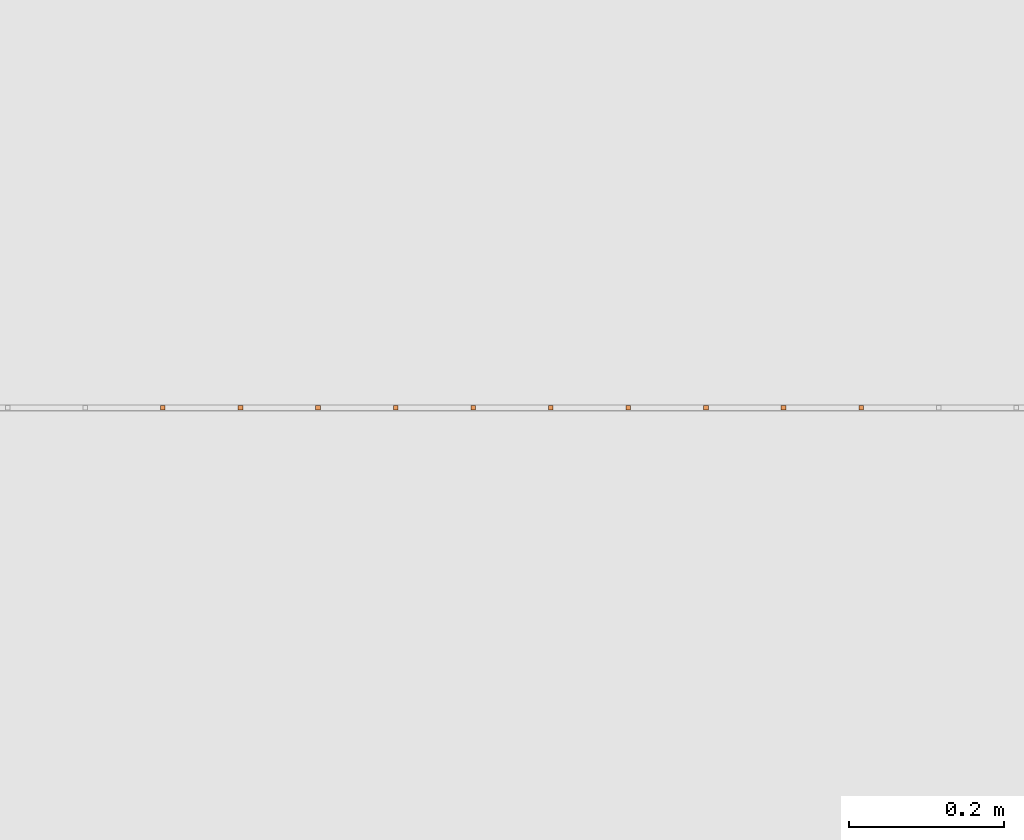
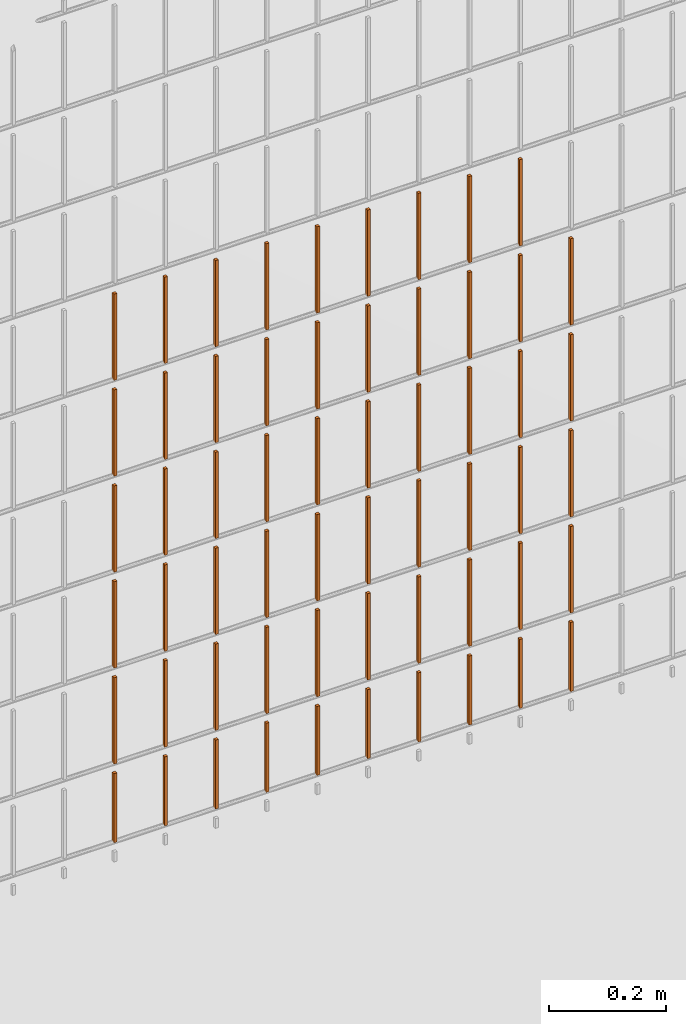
# One storey, part 239 of 1809: 59 proxies, 1 element without a shape of its own.
"""IFC2X3 building model written with IfcOpenShell, lengths in millimetres."""

from ifc_helpers import new_model, entity, si_unit, converted_unit, derived_unit, money_unit, direction, frame, origin_with_axes, place, context, subcontext, project, spatial, faceted_brep, source, transform, mapped, material, type_object, element, aggregate, save


model = new_model("IFC2X3")

# Units and contexts
model_context = context("Model", 3, precision=0.01, world=origin_with_axes(), true_north=direction((0.0, 1.0)))
body_context = subcontext(model_context, "Body", "Model", "MODEL_VIEW")
ifc_project = project(units=[si_unit("LENGTHUNIT", "METRE", prefix="MILLI"), si_unit("AREAUNIT", "SQUARE_METRE"), si_unit("VOLUMEUNIT", "CUBIC_METRE"), converted_unit("PLANEANGLEUNIT", "DEGREE", entity("IfcPlaneAngleMeasure", 0.0174532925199), si_unit("PLANEANGLEUNIT", "RADIAN"), dimensions=[0, 0, 0, 0, 0, 0, 0]), si_unit("SOLIDANGLEUNIT", "STERADIAN"), money_unit("EUR"), converted_unit("TIMEUNIT", "Year", entity("IfcTimeMeasure", 31556926.0), si_unit("TIMEUNIT", "SECOND"), dimensions=[0, 0, 1, 0, 0, 0, 0]), si_unit("MASSUNIT", "GRAM", prefix="KILO"), si_unit("THERMODYNAMICTEMPERATUREUNIT", "DEGREE_CELSIUS"), si_unit("LUMINOUSINTENSITYUNIT", "LUMEN"), si_unit("ENERGYUNIT", "JOULE", prefix="MEGA"), derived_unit("THERMALCONDUCTANCEUNIT", [(si_unit("POWERUNIT", "WATT"), 1), (si_unit("LENGTHUNIT", "METRE"), -1), (si_unit("THERMODYNAMICTEMPERATUREUNIT", "KELVIN"), -1)]), derived_unit("SPECIFICHEATCAPACITYUNIT", [(si_unit("ENERGYUNIT", "JOULE"), 1), (si_unit("MASSUNIT", "GRAM", prefix="KILO"), -1), (si_unit("THERMODYNAMICTEMPERATUREUNIT", "KELVIN"), -1)]), derived_unit("MASSDENSITYUNIT", [(si_unit("MASSUNIT", "GRAM", prefix="KILO"), 1), (si_unit("VOLUMEUNIT", "CUBIC_METRE"), -1)])], contexts=[model_context])

# Site, building, storey
site_placement = place(None, origin_with_axes())
site = spatial("IfcSite", under=ifc_project, at=site_placement, Name="Politse- ja Piirivalveameti ning Päästeameti ühishoone", CompositionType="ELEMENT")
building_placement = place(site_placement, origin_with_axes())
building = spatial("IfcBuilding", under=site, at=building_placement, Name="Politse- ja Piirivalveameti ning Päästeameti ühishoone", CompositionType="ELEMENT")
storey_placement = place(building_placement, origin_with_axes())
storey = spatial("IfcBuildingStorey", under=building, at=storey_placement, Name="Esimene korrus", CompositionType="ELEMENT", Elevation=0.0)

# Proxies
building_element_proxy_type_1 = type_object("IfcBuildingElementProxyType", Name="Railing Type", PredefinedType="NOTDEFINED")
proxy_1_placement = place(storey_placement, frame((-16775.8601056, 25156.7555964, 0.0), z_axis=(0.0, 0.0, 1.0), x_axis=(1.0, 0.0, 0.0)))
proxy_1 = element("IfcBuildingElementProxy", 1, at=proxy_1_placement, inside=storey, type_object=building_element_proxy_type_1, Name="KENNELI PIIRE")
ifc_material = material(Name="Teras - Konstruktsioon")
building_element_proxy_type_2 = type_object("IfcBuildingElementProxyType", Name="IfcBuildingElementProxy", PredefinedType="NOTDEFINED")
shared_shape_1 = source(origin_with_axes(), body_context, "Body", "Brep", [
    faceted_brep([(3.0, 3.0, 0.0), (-3.0, 3.0, 0.0), (-3.0, 3.0, 180.000012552), (3.0, 3.0, 180.000012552), (3.0, -3.0, 0.0), (-3.0, -3.0, 0.0), (-3.0, -3.0, 180.000012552), (3.0, -3.0, 180.000012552)], [[[0, 1, 2, 3]], [[0, 4, 5, 1]], [[1, 5, 6, 2]], [[3, 2, 6, 7]], [[4, 0, 3, 7]], [[5, 4, 7, 6]]]),
])
proxy_2_placement = place(proxy_1_placement, frame((-4082.26655065, -16068.8402798, 403.999987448), z_axis=(0.0, 0.0, 1.0), x_axis=(1.0, 0.0, 0.0)))
proxy_2 = element("IfcBuildingElementProxy", 2, at=proxy_2_placement, type_object=building_element_proxy_type_2, material=ifc_material, Name="BALUSTER - 001", context=body_context, shape_type="MappedRepresentation", body=[
    mapped(shared_shape_1, transform((0.0, 0.0, 0.0), x_axis=(0.0, -1.0, 0.0), y_axis=(1.0, 0.0, 0.0), z_axis=(0.0, 0.0, 1.0))),
])
proxy_3_placement = place(proxy_1_placement, frame((-3982.26655065, -16068.8402798, 403.999987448), z_axis=(0.0, 0.0, 1.0), x_axis=(1.0, 0.0, 0.0)))
proxy_3 = element("IfcBuildingElementProxy", 3, at=proxy_3_placement, type_object=building_element_proxy_type_2, material=ifc_material, Name="BALUSTER - 001", context=body_context, shape_type="MappedRepresentation", body=[
    mapped(shared_shape_1, transform((0.0, 0.0, 0.0), x_axis=(0.0, -1.0, 0.0), y_axis=(1.0, 0.0, 0.0), z_axis=(0.0, 0.0, 1.0))),
])
proxy_4_placement = place(proxy_1_placement, frame((-3882.26655065, -16068.8402798, 403.999987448), z_axis=(0.0, 0.0, 1.0), x_axis=(1.0, 0.0, 0.0)))
proxy_4 = element("IfcBuildingElementProxy", 4, at=proxy_4_placement, type_object=building_element_proxy_type_2, material=ifc_material, Name="BALUSTER - 001", context=body_context, shape_type="MappedRepresentation", body=[
    mapped(shared_shape_1, transform((0.0, 0.0, 0.0), x_axis=(0.0, -1.0, 0.0), y_axis=(1.0, 0.0, 0.0), z_axis=(0.0, 0.0, 1.0))),
])
proxy_5_placement = place(proxy_1_placement, frame((-3782.26655065, -16068.8402798, 403.999987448), z_axis=(0.0, 0.0, 1.0), x_axis=(1.0, 0.0, 0.0)))
proxy_5 = element("IfcBuildingElementProxy", 5, at=proxy_5_placement, type_object=building_element_proxy_type_2, material=ifc_material, Name="BALUSTER - 001", context=body_context, shape_type="MappedRepresentation", body=[
    mapped(shared_shape_1, transform((0.0, 0.0, 0.0), x_axis=(0.0, -1.0, 0.0), y_axis=(1.0, 0.0, 0.0), z_axis=(0.0, 0.0, 1.0))),
])
proxy_6_placement = place(proxy_1_placement, frame((-3682.26655065, -16068.8402798, 403.999987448), z_axis=(0.0, 0.0, 1.0), x_axis=(1.0, 0.0, 0.0)))
proxy_6 = element("IfcBuildingElementProxy", 6, at=proxy_6_placement, type_object=building_element_proxy_type_2, material=ifc_material, Name="BALUSTER - 001", context=body_context, shape_type="MappedRepresentation", body=[
    mapped(shared_shape_1, transform((0.0, 0.0, 0.0), x_axis=(0.0, -1.0, 0.0), y_axis=(1.0, 0.0, 0.0), z_axis=(0.0, 0.0, 1.0))),
])
proxy_7_placement = place(proxy_1_placement, frame((-3582.26655065, -16068.8402798, 403.999987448), z_axis=(0.0, 0.0, 1.0), x_axis=(1.0, 0.0, 0.0)))
proxy_7 = element("IfcBuildingElementProxy", 7, at=proxy_7_placement, type_object=building_element_proxy_type_2, material=ifc_material, Name="BALUSTER - 001", context=body_context, shape_type="MappedRepresentation", body=[
    mapped(shared_shape_1, transform((0.0, 0.0, 0.0), x_axis=(0.0, -1.0, 0.0), y_axis=(1.0, 0.0, 0.0), z_axis=(0.0, 0.0, 1.0))),
])
proxy_8_placement = place(proxy_1_placement, frame((-3482.26655065, -16068.8402798, 403.999987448), z_axis=(0.0, 0.0, 1.0), x_axis=(1.0, 0.0, 0.0)))
proxy_8 = element("IfcBuildingElementProxy", 8, at=proxy_8_placement, type_object=building_element_proxy_type_2, material=ifc_material, Name="BALUSTER - 001", context=body_context, shape_type="MappedRepresentation", body=[
    mapped(shared_shape_1, transform((0.0, 0.0, 0.0), x_axis=(0.0, -1.0, 0.0), y_axis=(1.0, 0.0, 0.0), z_axis=(0.0, 0.0, 1.0))),
])
proxy_9_placement = place(proxy_1_placement, frame((-3382.26655065, -16068.8402798, 403.999987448), z_axis=(0.0, 0.0, 1.0), x_axis=(1.0, 0.0, 0.0)))
proxy_9 = element("IfcBuildingElementProxy", 9, at=proxy_9_placement, type_object=building_element_proxy_type_2, material=ifc_material, Name="BALUSTER - 001", context=body_context, shape_type="MappedRepresentation", body=[
    mapped(shared_shape_1, transform((0.0, 0.0, 0.0), x_axis=(0.0, -1.0, 0.0), y_axis=(1.0, 0.0, 0.0), z_axis=(0.0, 0.0, 1.0))),
])
proxy_10_placement = place(proxy_1_placement, frame((-3282.26655065, -16068.8402798, 403.999987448), z_axis=(0.0, 0.0, 1.0), x_axis=(1.0, 0.0, 0.0)))
proxy_10 = element("IfcBuildingElementProxy", 10, at=proxy_10_placement, type_object=building_element_proxy_type_2, material=ifc_material, Name="BALUSTER - 001", context=body_context, shape_type="MappedRepresentation", body=[
    mapped(shared_shape_1, transform((0.0, 0.0, 0.0), x_axis=(0.0, -1.0, 0.0), y_axis=(1.0, 0.0, 0.0), z_axis=(0.0, 0.0, 1.0))),
])
proxy_11_placement = place(proxy_1_placement, frame((-3182.26655065, -16068.8402798, 403.999987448), z_axis=(0.0, 0.0, 1.0), x_axis=(1.0, 0.0, 0.0)))
proxy_11 = element("IfcBuildingElementProxy", 11, at=proxy_11_placement, type_object=building_element_proxy_type_2, material=ifc_material, Name="BALUSTER - 001", context=body_context, shape_type="MappedRepresentation", body=[
    mapped(shared_shape_1, transform((0.0, 0.0, 0.0), x_axis=(0.0, -1.0, 0.0), y_axis=(1.0, 0.0, 0.0), z_axis=(0.0, 0.0, 1.0))),
])
proxy_12_placement = place(proxy_1_placement, frame((-4082.26655065, -16068.8402798, 803.999987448), z_axis=(0.0, 0.0, 1.0), x_axis=(1.0, 0.0, 0.0)))
proxy_12 = element("IfcBuildingElementProxy", 12, at=proxy_12_placement, type_object=building_element_proxy_type_2, material=ifc_material, Name="BALUSTER - 001", context=body_context, shape_type="MappedRepresentation", body=[
    mapped(shared_shape_1, transform((0.0, 0.0, 0.0), x_axis=(0.0, -1.0, 0.0), y_axis=(1.0, 0.0, 0.0), z_axis=(0.0, 0.0, 1.0))),
])
proxy_13_placement = place(proxy_1_placement, frame((-3982.26655065, -16068.8402798, 803.999987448), z_axis=(0.0, 0.0, 1.0), x_axis=(1.0, 0.0, 0.0)))
proxy_13 = element("IfcBuildingElementProxy", 13, at=proxy_13_placement, type_object=building_element_proxy_type_2, material=ifc_material, Name="BALUSTER - 001", context=body_context, shape_type="MappedRepresentation", body=[
    mapped(shared_shape_1, transform((0.0, 0.0, 0.0), x_axis=(0.0, -1.0, 0.0), y_axis=(1.0, 0.0, 0.0), z_axis=(0.0, 0.0, 1.0))),
])
proxy_14_placement = place(proxy_1_placement, frame((-3882.26655065, -16068.8402798, 803.999987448), z_axis=(0.0, 0.0, 1.0), x_axis=(1.0, 0.0, 0.0)))
proxy_14 = element("IfcBuildingElementProxy", 14, at=proxy_14_placement, type_object=building_element_proxy_type_2, material=ifc_material, Name="BALUSTER - 001", context=body_context, shape_type="MappedRepresentation", body=[
    mapped(shared_shape_1, transform((0.0, 0.0, 0.0), x_axis=(0.0, -1.0, 0.0), y_axis=(1.0, 0.0, 0.0), z_axis=(0.0, 0.0, 1.0))),
])
proxy_15_placement = place(proxy_1_placement, frame((-3782.26655065, -16068.8402798, 803.999987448), z_axis=(0.0, 0.0, 1.0), x_axis=(1.0, 0.0, 0.0)))
proxy_15 = element("IfcBuildingElementProxy", 15, at=proxy_15_placement, type_object=building_element_proxy_type_2, material=ifc_material, Name="BALUSTER - 001", context=body_context, shape_type="MappedRepresentation", body=[
    mapped(shared_shape_1, transform((0.0, 0.0, 0.0), x_axis=(0.0, -1.0, 0.0), y_axis=(1.0, 0.0, 0.0), z_axis=(0.0, 0.0, 1.0))),
])
proxy_16_placement = place(proxy_1_placement, frame((-3682.26655065, -16068.8402798, 803.999987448), z_axis=(0.0, 0.0, 1.0), x_axis=(1.0, 0.0, 0.0)))
proxy_16 = element("IfcBuildingElementProxy", 16, at=proxy_16_placement, type_object=building_element_proxy_type_2, material=ifc_material, Name="BALUSTER - 001", context=body_context, shape_type="MappedRepresentation", body=[
    mapped(shared_shape_1, transform((0.0, 0.0, 0.0), x_axis=(0.0, -1.0, 0.0), y_axis=(1.0, 0.0, 0.0), z_axis=(0.0, 0.0, 1.0))),
])
proxy_17_placement = place(proxy_1_placement, frame((-3582.26655065, -16068.8402798, 803.999987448), z_axis=(0.0, 0.0, 1.0), x_axis=(1.0, 0.0, 0.0)))
proxy_17 = element("IfcBuildingElementProxy", 17, at=proxy_17_placement, type_object=building_element_proxy_type_2, material=ifc_material, Name="BALUSTER - 001", context=body_context, shape_type="MappedRepresentation", body=[
    mapped(shared_shape_1, transform((0.0, 0.0, 0.0), x_axis=(0.0, -1.0, 0.0), y_axis=(1.0, 0.0, 0.0), z_axis=(0.0, 0.0, 1.0))),
])
proxy_18_placement = place(proxy_1_placement, frame((-3482.26655065, -16068.8402798, 803.999987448), z_axis=(0.0, 0.0, 1.0), x_axis=(1.0, 0.0, 0.0)))
proxy_18 = element("IfcBuildingElementProxy", 18, at=proxy_18_placement, type_object=building_element_proxy_type_2, material=ifc_material, Name="BALUSTER - 001", context=body_context, shape_type="MappedRepresentation", body=[
    mapped(shared_shape_1, transform((0.0, 0.0, 0.0), x_axis=(0.0, -1.0, 0.0), y_axis=(1.0, 0.0, 0.0), z_axis=(0.0, 0.0, 1.0))),
])
proxy_19_placement = place(proxy_1_placement, frame((-3382.26655065, -16068.8402798, 803.999987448), z_axis=(0.0, 0.0, 1.0), x_axis=(1.0, 0.0, 0.0)))
proxy_19 = element("IfcBuildingElementProxy", 19, at=proxy_19_placement, type_object=building_element_proxy_type_2, material=ifc_material, Name="BALUSTER - 001", context=body_context, shape_type="MappedRepresentation", body=[
    mapped(shared_shape_1, transform((0.0, 0.0, 0.0), x_axis=(0.0, -1.0, 0.0), y_axis=(1.0, 0.0, 0.0), z_axis=(0.0, 0.0, 1.0))),
])
proxy_20_placement = place(proxy_1_placement, frame((-3282.26655065, -16068.8402798, 803.999987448), z_axis=(0.0, 0.0, 1.0), x_axis=(1.0, 0.0, 0.0)))
proxy_20 = element("IfcBuildingElementProxy", 20, at=proxy_20_placement, type_object=building_element_proxy_type_2, material=ifc_material, Name="BALUSTER - 001", context=body_context, shape_type="MappedRepresentation", body=[
    mapped(shared_shape_1, transform((0.0, 0.0, 0.0), x_axis=(0.0, -1.0, 0.0), y_axis=(1.0, 0.0, 0.0), z_axis=(0.0, 0.0, 1.0))),
])
proxy_21_placement = place(proxy_1_placement, frame((-3182.26655065, -16068.8402798, 803.999987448), z_axis=(0.0, 0.0, 1.0), x_axis=(1.0, 0.0, 0.0)))
proxy_21 = element("IfcBuildingElementProxy", 21, at=proxy_21_placement, type_object=building_element_proxy_type_2, material=ifc_material, Name="BALUSTER - 001", context=body_context, shape_type="MappedRepresentation", body=[
    mapped(shared_shape_1, transform((0.0, 0.0, 0.0), x_axis=(0.0, -1.0, 0.0), y_axis=(1.0, 0.0, 0.0), z_axis=(0.0, 0.0, 1.0))),
])
proxy_22_placement = place(proxy_1_placement, frame((-4082.26655065, -16068.8402798, 1003.99998745), z_axis=(0.0, 0.0, 1.0), x_axis=(1.0, 0.0, 0.0)))
proxy_22 = element("IfcBuildingElementProxy", 22, at=proxy_22_placement, type_object=building_element_proxy_type_2, material=ifc_material, Name="BALUSTER - 001", context=body_context, shape_type="MappedRepresentation", body=[
    mapped(shared_shape_1, transform((0.0, 0.0, 0.0), x_axis=(0.0, -1.0, 0.0), y_axis=(1.0, 0.0, 0.0), z_axis=(0.0, 0.0, 1.0))),
])
proxy_23_placement = place(proxy_1_placement, frame((-3982.26655065, -16068.8402798, 1003.99998745), z_axis=(0.0, 0.0, 1.0), x_axis=(1.0, 0.0, 0.0)))
proxy_23 = element("IfcBuildingElementProxy", 23, at=proxy_23_placement, type_object=building_element_proxy_type_2, material=ifc_material, Name="BALUSTER - 001", context=body_context, shape_type="MappedRepresentation", body=[
    mapped(shared_shape_1, transform((0.0, 0.0, 0.0), x_axis=(0.0, -1.0, 0.0), y_axis=(1.0, 0.0, 0.0), z_axis=(0.0, 0.0, 1.0))),
])
proxy_24_placement = place(proxy_1_placement, frame((-3882.26655065, -16068.8402798, 1003.99998745), z_axis=(0.0, 0.0, 1.0), x_axis=(1.0, 0.0, 0.0)))
proxy_24 = element("IfcBuildingElementProxy", 24, at=proxy_24_placement, type_object=building_element_proxy_type_2, material=ifc_material, Name="BALUSTER - 001", context=body_context, shape_type="MappedRepresentation", body=[
    mapped(shared_shape_1, transform((0.0, 0.0, 0.0), x_axis=(0.0, -1.0, 0.0), y_axis=(1.0, 0.0, 0.0), z_axis=(0.0, 0.0, 1.0))),
])
proxy_25_placement = place(proxy_1_placement, frame((-3782.26655065, -16068.8402798, 1003.99998745), z_axis=(0.0, 0.0, 1.0), x_axis=(1.0, 0.0, 0.0)))
proxy_25 = element("IfcBuildingElementProxy", 25, at=proxy_25_placement, type_object=building_element_proxy_type_2, material=ifc_material, Name="BALUSTER - 001", context=body_context, shape_type="MappedRepresentation", body=[
    mapped(shared_shape_1, transform((0.0, 0.0, 0.0), x_axis=(0.0, -1.0, 0.0), y_axis=(1.0, 0.0, 0.0), z_axis=(0.0, 0.0, 1.0))),
])
proxy_26_placement = place(proxy_1_placement, frame((-3682.26655065, -16068.8402798, 1003.99998745), z_axis=(0.0, 0.0, 1.0), x_axis=(1.0, 0.0, 0.0)))
proxy_26 = element("IfcBuildingElementProxy", 26, at=proxy_26_placement, type_object=building_element_proxy_type_2, material=ifc_material, Name="BALUSTER - 001", context=body_context, shape_type="MappedRepresentation", body=[
    mapped(shared_shape_1, transform((0.0, 0.0, 0.0), x_axis=(0.0, -1.0, 0.0), y_axis=(1.0, 0.0, 0.0), z_axis=(0.0, 0.0, 1.0))),
])
proxy_27_placement = place(proxy_1_placement, frame((-3582.26655065, -16068.8402798, 1003.99998745), z_axis=(0.0, 0.0, 1.0), x_axis=(1.0, 0.0, 0.0)))
proxy_27 = element("IfcBuildingElementProxy", 27, at=proxy_27_placement, type_object=building_element_proxy_type_2, material=ifc_material, Name="BALUSTER - 001", context=body_context, shape_type="MappedRepresentation", body=[
    mapped(shared_shape_1, transform((0.0, 0.0, 0.0), x_axis=(0.0, -1.0, 0.0), y_axis=(1.0, 0.0, 0.0), z_axis=(0.0, 0.0, 1.0))),
])
proxy_28_placement = place(proxy_1_placement, frame((-3482.26655065, -16068.8402798, 1003.99998745), z_axis=(0.0, 0.0, 1.0), x_axis=(1.0, 0.0, 0.0)))
proxy_28 = element("IfcBuildingElementProxy", 28, at=proxy_28_placement, type_object=building_element_proxy_type_2, material=ifc_material, Name="BALUSTER - 001", context=body_context, shape_type="MappedRepresentation", body=[
    mapped(shared_shape_1, transform((0.0, 0.0, 0.0), x_axis=(0.0, -1.0, 0.0), y_axis=(1.0, 0.0, 0.0), z_axis=(0.0, 0.0, 1.0))),
])
proxy_29_placement = place(proxy_1_placement, frame((-3382.26655065, -16068.8402798, 1003.99998745), z_axis=(0.0, 0.0, 1.0), x_axis=(1.0, 0.0, 0.0)))
proxy_29 = element("IfcBuildingElementProxy", 29, at=proxy_29_placement, type_object=building_element_proxy_type_2, material=ifc_material, Name="BALUSTER - 001", context=body_context, shape_type="MappedRepresentation", body=[
    mapped(shared_shape_1, transform((0.0, 0.0, 0.0), x_axis=(0.0, -1.0, 0.0), y_axis=(1.0, 0.0, 0.0), z_axis=(0.0, 0.0, 1.0))),
])
proxy_30_placement = place(proxy_1_placement, frame((-3282.26655065, -16068.8402798, 1003.99998745), z_axis=(0.0, 0.0, 1.0), x_axis=(1.0, 0.0, 0.0)))
proxy_30 = element("IfcBuildingElementProxy", 30, at=proxy_30_placement, type_object=building_element_proxy_type_2, material=ifc_material, Name="BALUSTER - 001", context=body_context, shape_type="MappedRepresentation", body=[
    mapped(shared_shape_1, transform((0.0, 0.0, 0.0), x_axis=(0.0, -1.0, 0.0), y_axis=(1.0, 0.0, 0.0), z_axis=(0.0, 0.0, 1.0))),
])
shared_shape_2 = source(origin_with_axes(), body_context, "Body", "Brep", [
    faceted_brep([(3.0, 3.0, 0.0), (-3.0, 3.0, 0.0), (-3.0, 3.0, 144.000012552), (3.0, 3.0, 144.000012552), (3.0, -3.0, 0.0), (-3.0, -3.0, 0.0), (-3.0, -3.0, 144.000012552), (3.0, -3.0, 144.000012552)], [[[0, 1, 2, 3]], [[0, 4, 5, 1]], [[1, 5, 6, 2]], [[3, 2, 6, 7]], [[4, 0, 3, 7]], [[5, 4, 7, 6]]]),
])
proxy_31_placement = place(proxy_1_placement, frame((-4082.26655065, -16068.8402798, 39.9999874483), z_axis=(0.0, 0.0, 1.0), x_axis=(1.0, 0.0, 0.0)))
proxy_31 = element("IfcBuildingElementProxy", 31, at=proxy_31_placement, type_object=building_element_proxy_type_2, material=ifc_material, Name="BALUSTER - 001", context=body_context, shape_type="MappedRepresentation", body=[
    mapped(shared_shape_2, transform((0.0, 0.0, 0.0), x_axis=(0.0, -1.0, 0.0), y_axis=(1.0, 0.0, 0.0), z_axis=(0.0, 0.0, 1.0))),
])
proxy_32_placement = place(proxy_1_placement, frame((-3982.26655065, -16068.8402798, 39.9999874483), z_axis=(0.0, 0.0, 1.0), x_axis=(1.0, 0.0, 0.0)))
proxy_32 = element("IfcBuildingElementProxy", 32, at=proxy_32_placement, type_object=building_element_proxy_type_2, material=ifc_material, Name="BALUSTER - 001", context=body_context, shape_type="MappedRepresentation", body=[
    mapped(shared_shape_2, transform((0.0, 0.0, 0.0), x_axis=(0.0, -1.0, 0.0), y_axis=(1.0, 0.0, 0.0), z_axis=(0.0, 0.0, 1.0))),
])
proxy_33_placement = place(proxy_1_placement, frame((-3882.26655065, -16068.8402798, 39.9999874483), z_axis=(0.0, 0.0, 1.0), x_axis=(1.0, 0.0, 0.0)))
proxy_33 = element("IfcBuildingElementProxy", 33, at=proxy_33_placement, type_object=building_element_proxy_type_2, material=ifc_material, Name="BALUSTER - 001", context=body_context, shape_type="MappedRepresentation", body=[
    mapped(shared_shape_2, transform((0.0, 0.0, 0.0), x_axis=(0.0, -1.0, 0.0), y_axis=(1.0, 0.0, 0.0), z_axis=(0.0, 0.0, 1.0))),
])
proxy_34_placement = place(proxy_1_placement, frame((-3782.26655065, -16068.8402798, 39.9999874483), z_axis=(0.0, 0.0, 1.0), x_axis=(1.0, 0.0, 0.0)))
proxy_34 = element("IfcBuildingElementProxy", 34, at=proxy_34_placement, type_object=building_element_proxy_type_2, material=ifc_material, Name="BALUSTER - 001", context=body_context, shape_type="MappedRepresentation", body=[
    mapped(shared_shape_2, transform((0.0, 0.0, 0.0), x_axis=(0.0, -1.0, 0.0), y_axis=(1.0, 0.0, 0.0), z_axis=(0.0, 0.0, 1.0))),
])
proxy_35_placement = place(proxy_1_placement, frame((-3682.26655065, -16068.8402798, 39.9999874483), z_axis=(0.0, 0.0, 1.0), x_axis=(1.0, 0.0, 0.0)))
proxy_35 = element("IfcBuildingElementProxy", 35, at=proxy_35_placement, type_object=building_element_proxy_type_2, material=ifc_material, Name="BALUSTER - 001", context=body_context, shape_type="MappedRepresentation", body=[
    mapped(shared_shape_2, transform((0.0, 0.0, 0.0), x_axis=(0.0, -1.0, 0.0), y_axis=(1.0, 0.0, 0.0), z_axis=(0.0, 0.0, 1.0))),
])
proxy_36_placement = place(proxy_1_placement, frame((-3582.26655065, -16068.8402798, 39.9999874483), z_axis=(0.0, 0.0, 1.0), x_axis=(1.0, 0.0, 0.0)))
proxy_36 = element("IfcBuildingElementProxy", 36, at=proxy_36_placement, type_object=building_element_proxy_type_2, material=ifc_material, Name="BALUSTER - 001", context=body_context, shape_type="MappedRepresentation", body=[
    mapped(shared_shape_2, transform((0.0, 0.0, 0.0), x_axis=(0.0, -1.0, 0.0), y_axis=(1.0, 0.0, 0.0), z_axis=(0.0, 0.0, 1.0))),
])
proxy_37_placement = place(proxy_1_placement, frame((-3482.26655065, -16068.8402798, 39.9999874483), z_axis=(0.0, 0.0, 1.0), x_axis=(1.0, 0.0, 0.0)))
proxy_37 = element("IfcBuildingElementProxy", 37, at=proxy_37_placement, type_object=building_element_proxy_type_2, material=ifc_material, Name="BALUSTER - 001", context=body_context, shape_type="MappedRepresentation", body=[
    mapped(shared_shape_2, transform((0.0, 0.0, 0.0), x_axis=(0.0, -1.0, 0.0), y_axis=(1.0, 0.0, 0.0), z_axis=(0.0, 0.0, 1.0))),
])
proxy_38_placement = place(proxy_1_placement, frame((-3382.26655065, -16068.8402798, 39.9999874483), z_axis=(0.0, 0.0, 1.0), x_axis=(1.0, 0.0, 0.0)))
proxy_38 = element("IfcBuildingElementProxy", 38, at=proxy_38_placement, type_object=building_element_proxy_type_2, material=ifc_material, Name="BALUSTER - 001", context=body_context, shape_type="MappedRepresentation", body=[
    mapped(shared_shape_2, transform((0.0, 0.0, 0.0), x_axis=(0.0, -1.0, 0.0), y_axis=(1.0, 0.0, 0.0), z_axis=(0.0, 0.0, 1.0))),
])
proxy_39_placement = place(proxy_1_placement, frame((-3282.26655065, -16068.8402798, 39.9999874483), z_axis=(0.0, 0.0, 1.0), x_axis=(1.0, 0.0, 0.0)))
proxy_39 = element("IfcBuildingElementProxy", 39, at=proxy_39_placement, type_object=building_element_proxy_type_2, material=ifc_material, Name="BALUSTER - 001", context=body_context, shape_type="MappedRepresentation", body=[
    mapped(shared_shape_2, transform((0.0, 0.0, 0.0), x_axis=(0.0, -1.0, 0.0), y_axis=(1.0, 0.0, 0.0), z_axis=(0.0, 0.0, 1.0))),
])
proxy_40_placement = place(proxy_1_placement, frame((-3182.26655065, -16068.8402798, 39.9999874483), z_axis=(0.0, 0.0, 1.0), x_axis=(1.0, 0.0, 0.0)))
proxy_40 = element("IfcBuildingElementProxy", 40, at=proxy_40_placement, type_object=building_element_proxy_type_2, material=ifc_material, Name="BALUSTER - 001", context=body_context, shape_type="MappedRepresentation", body=[
    mapped(shared_shape_2, transform((0.0, 0.0, 0.0), x_axis=(0.0, -1.0, 0.0), y_axis=(1.0, 0.0, 0.0), z_axis=(0.0, 0.0, 1.0))),
])
shared_shape_3 = source(origin_with_axes(), body_context, "Body", "Brep", [
    faceted_brep([(3.0, 3.0, 0.0), (-3.0, 3.0, 0.0), (-3.0, 3.0, 180.000012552), (3.0, 3.0, 180.000012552), (3.0, -3.0, 0.0), (-3.0, -3.0, 0.0), (-3.0, -3.0, 180.000012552), (3.0, -3.0, 180.000012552)], [[[0, 1, 2, 3]], [[0, 4, 5, 1]], [[1, 5, 6, 2]], [[3, 2, 6, 7]], [[4, 0, 3, 7]], [[5, 4, 7, 6]]]),
])
proxy_41_placement = place(proxy_1_placement, frame((-4082.26655065, -16068.8402798, 203.999987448), z_axis=(0.0, 0.0, 1.0), x_axis=(1.0, 0.0, 0.0)))
proxy_41 = element("IfcBuildingElementProxy", 41, at=proxy_41_placement, type_object=building_element_proxy_type_2, material=ifc_material, Name="BALUSTER - 001", context=body_context, shape_type="MappedRepresentation", body=[
    mapped(shared_shape_3, transform((0.0, 0.0, 0.0), x_axis=(0.0, -1.0, 0.0), y_axis=(1.0, 0.0, 0.0), z_axis=(0.0, 0.0, 1.0))),
])
proxy_42_placement = place(proxy_1_placement, frame((-3982.26655065, -16068.8402798, 203.999987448), z_axis=(0.0, 0.0, 1.0), x_axis=(1.0, 0.0, 0.0)))
proxy_42 = element("IfcBuildingElementProxy", 42, at=proxy_42_placement, type_object=building_element_proxy_type_2, material=ifc_material, Name="BALUSTER - 001", context=body_context, shape_type="MappedRepresentation", body=[
    mapped(shared_shape_3, transform((0.0, 0.0, 0.0), x_axis=(0.0, -1.0, 0.0), y_axis=(1.0, 0.0, 0.0), z_axis=(0.0, 0.0, 1.0))),
])
proxy_43_placement = place(proxy_1_placement, frame((-3882.26655065, -16068.8402798, 203.999987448), z_axis=(0.0, 0.0, 1.0), x_axis=(1.0, 0.0, 0.0)))
proxy_43 = element("IfcBuildingElementProxy", 43, at=proxy_43_placement, type_object=building_element_proxy_type_2, material=ifc_material, Name="BALUSTER - 001", context=body_context, shape_type="MappedRepresentation", body=[
    mapped(shared_shape_3, transform((0.0, 0.0, 0.0), x_axis=(0.0, -1.0, 0.0), y_axis=(1.0, 0.0, 0.0), z_axis=(0.0, 0.0, 1.0))),
])
proxy_44_placement = place(proxy_1_placement, frame((-3782.26655065, -16068.8402798, 203.999987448), z_axis=(0.0, 0.0, 1.0), x_axis=(1.0, 0.0, 0.0)))
proxy_44 = element("IfcBuildingElementProxy", 44, at=proxy_44_placement, type_object=building_element_proxy_type_2, material=ifc_material, Name="BALUSTER - 001", context=body_context, shape_type="MappedRepresentation", body=[
    mapped(shared_shape_3, transform((0.0, 0.0, 0.0), x_axis=(0.0, -1.0, 0.0), y_axis=(1.0, 0.0, 0.0), z_axis=(0.0, 0.0, 1.0))),
])
proxy_45_placement = place(proxy_1_placement, frame((-3682.26655065, -16068.8402798, 203.999987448), z_axis=(0.0, 0.0, 1.0), x_axis=(1.0, 0.0, 0.0)))
proxy_45 = element("IfcBuildingElementProxy", 45, at=proxy_45_placement, type_object=building_element_proxy_type_2, material=ifc_material, Name="BALUSTER - 001", context=body_context, shape_type="MappedRepresentation", body=[
    mapped(shared_shape_3, transform((0.0, 0.0, 0.0), x_axis=(0.0, -1.0, 0.0), y_axis=(1.0, 0.0, 0.0), z_axis=(0.0, 0.0, 1.0))),
])
proxy_46_placement = place(proxy_1_placement, frame((-3582.26655065, -16068.8402798, 203.999987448), z_axis=(0.0, 0.0, 1.0), x_axis=(1.0, 0.0, 0.0)))
proxy_46 = element("IfcBuildingElementProxy", 46, at=proxy_46_placement, type_object=building_element_proxy_type_2, material=ifc_material, Name="BALUSTER - 001", context=body_context, shape_type="MappedRepresentation", body=[
    mapped(shared_shape_3, transform((0.0, 0.0, 0.0), x_axis=(0.0, -1.0, 0.0), y_axis=(1.0, 0.0, 0.0), z_axis=(0.0, 0.0, 1.0))),
])
proxy_47_placement = place(proxy_1_placement, frame((-3482.26655065, -16068.8402798, 203.999987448), z_axis=(0.0, 0.0, 1.0), x_axis=(1.0, 0.0, 0.0)))
proxy_47 = element("IfcBuildingElementProxy", 47, at=proxy_47_placement, type_object=building_element_proxy_type_2, material=ifc_material, Name="BALUSTER - 001", context=body_context, shape_type="MappedRepresentation", body=[
    mapped(shared_shape_3, transform((0.0, 0.0, 0.0), x_axis=(0.0, -1.0, 0.0), y_axis=(1.0, 0.0, 0.0), z_axis=(0.0, 0.0, 1.0))),
])
proxy_48_placement = place(proxy_1_placement, frame((-3382.26655065, -16068.8402798, 203.999987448), z_axis=(0.0, 0.0, 1.0), x_axis=(1.0, 0.0, 0.0)))
proxy_48 = element("IfcBuildingElementProxy", 48, at=proxy_48_placement, type_object=building_element_proxy_type_2, material=ifc_material, Name="BALUSTER - 001", context=body_context, shape_type="MappedRepresentation", body=[
    mapped(shared_shape_3, transform((0.0, 0.0, 0.0), x_axis=(0.0, -1.0, 0.0), y_axis=(1.0, 0.0, 0.0), z_axis=(0.0, 0.0, 1.0))),
])
proxy_49_placement = place(proxy_1_placement, frame((-3282.26655065, -16068.8402798, 203.999987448), z_axis=(0.0, 0.0, 1.0), x_axis=(1.0, 0.0, 0.0)))
proxy_49 = element("IfcBuildingElementProxy", 49, at=proxy_49_placement, type_object=building_element_proxy_type_2, material=ifc_material, Name="BALUSTER - 001", context=body_context, shape_type="MappedRepresentation", body=[
    mapped(shared_shape_3, transform((0.0, 0.0, 0.0), x_axis=(0.0, -1.0, 0.0), y_axis=(1.0, 0.0, 0.0), z_axis=(0.0, 0.0, 1.0))),
])
proxy_50_placement = place(proxy_1_placement, frame((-3182.26655065, -16068.8402798, 203.999987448), z_axis=(0.0, 0.0, 1.0), x_axis=(1.0, 0.0, 0.0)))
proxy_50 = element("IfcBuildingElementProxy", 50, at=proxy_50_placement, type_object=building_element_proxy_type_2, material=ifc_material, Name="BALUSTER - 001", context=body_context, shape_type="MappedRepresentation", body=[
    mapped(shared_shape_3, transform((0.0, 0.0, 0.0), x_axis=(0.0, -1.0, 0.0), y_axis=(1.0, 0.0, 0.0), z_axis=(0.0, 0.0, 1.0))),
])
shared_shape_4 = source(origin_with_axes(), body_context, "Body", "Brep", [
    faceted_brep([(3.0, 3.0, 0.0), (-3.0, 3.0, 0.0), (-3.0, 3.0, 180.000012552), (3.0, 3.0, 180.000012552), (3.0, -3.0, 0.0), (-3.0, -3.0, 0.0), (-3.0, -3.0, 180.000012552), (3.0, -3.0, 180.000012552)], [[[0, 1, 2, 3]], [[0, 4, 5, 1]], [[1, 5, 6, 2]], [[3, 2, 6, 7]], [[4, 0, 3, 7]], [[5, 4, 7, 6]]]),
])
proxy_51_placement = place(proxy_1_placement, frame((-4082.26655065, -16068.8402798, 603.999987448), z_axis=(0.0, 0.0, 1.0), x_axis=(1.0, 0.0, 0.0)))
proxy_51 = element("IfcBuildingElementProxy", 51, at=proxy_51_placement, type_object=building_element_proxy_type_2, material=ifc_material, Name="BALUSTER - 001", context=body_context, shape_type="MappedRepresentation", body=[
    mapped(shared_shape_4, transform((0.0, 0.0, 0.0), x_axis=(0.0, -1.0, 0.0), y_axis=(1.0, 0.0, 0.0), z_axis=(0.0, 0.0, 1.0))),
])
proxy_52_placement = place(proxy_1_placement, frame((-3982.26655065, -16068.8402798, 603.999987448), z_axis=(0.0, 0.0, 1.0), x_axis=(1.0, 0.0, 0.0)))
proxy_52 = element("IfcBuildingElementProxy", 52, at=proxy_52_placement, type_object=building_element_proxy_type_2, material=ifc_material, Name="BALUSTER - 001", context=body_context, shape_type="MappedRepresentation", body=[
    mapped(shared_shape_4, transform((0.0, 0.0, 0.0), x_axis=(0.0, -1.0, 0.0), y_axis=(1.0, 0.0, 0.0), z_axis=(0.0, 0.0, 1.0))),
])
proxy_53_placement = place(proxy_1_placement, frame((-3882.26655065, -16068.8402798, 603.999987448), z_axis=(0.0, 0.0, 1.0), x_axis=(1.0, 0.0, 0.0)))
proxy_53 = element("IfcBuildingElementProxy", 53, at=proxy_53_placement, type_object=building_element_proxy_type_2, material=ifc_material, Name="BALUSTER - 001", context=body_context, shape_type="MappedRepresentation", body=[
    mapped(shared_shape_4, transform((0.0, 0.0, 0.0), x_axis=(0.0, -1.0, 0.0), y_axis=(1.0, 0.0, 0.0), z_axis=(0.0, 0.0, 1.0))),
])
proxy_54_placement = place(proxy_1_placement, frame((-3782.26655065, -16068.8402798, 603.999987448), z_axis=(0.0, 0.0, 1.0), x_axis=(1.0, 0.0, 0.0)))
proxy_54 = element("IfcBuildingElementProxy", 54, at=proxy_54_placement, type_object=building_element_proxy_type_2, material=ifc_material, Name="BALUSTER - 001", context=body_context, shape_type="MappedRepresentation", body=[
    mapped(shared_shape_4, transform((0.0, 0.0, 0.0), x_axis=(0.0, -1.0, 0.0), y_axis=(1.0, 0.0, 0.0), z_axis=(0.0, 0.0, 1.0))),
])
proxy_55_placement = place(proxy_1_placement, frame((-3682.26655065, -16068.8402798, 603.999987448), z_axis=(0.0, 0.0, 1.0), x_axis=(1.0, 0.0, 0.0)))
proxy_55 = element("IfcBuildingElementProxy", 55, at=proxy_55_placement, type_object=building_element_proxy_type_2, material=ifc_material, Name="BALUSTER - 001", context=body_context, shape_type="MappedRepresentation", body=[
    mapped(shared_shape_4, transform((0.0, 0.0, 0.0), x_axis=(0.0, -1.0, 0.0), y_axis=(1.0, 0.0, 0.0), z_axis=(0.0, 0.0, 1.0))),
])
proxy_56_placement = place(proxy_1_placement, frame((-3582.26655065, -16068.8402798, 603.999987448), z_axis=(0.0, 0.0, 1.0), x_axis=(1.0, 0.0, 0.0)))
proxy_56 = element("IfcBuildingElementProxy", 56, at=proxy_56_placement, type_object=building_element_proxy_type_2, material=ifc_material, Name="BALUSTER - 001", context=body_context, shape_type="MappedRepresentation", body=[
    mapped(shared_shape_4, transform((0.0, 0.0, 0.0), x_axis=(0.0, -1.0, 0.0), y_axis=(1.0, 0.0, 0.0), z_axis=(0.0, 0.0, 1.0))),
])
proxy_57_placement = place(proxy_1_placement, frame((-3482.26655065, -16068.8402798, 603.999987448), z_axis=(0.0, 0.0, 1.0), x_axis=(1.0, 0.0, 0.0)))
proxy_57 = element("IfcBuildingElementProxy", 57, at=proxy_57_placement, type_object=building_element_proxy_type_2, material=ifc_material, Name="BALUSTER - 001", context=body_context, shape_type="MappedRepresentation", body=[
    mapped(shared_shape_4, transform((0.0, 0.0, 0.0), x_axis=(0.0, -1.0, 0.0), y_axis=(1.0, 0.0, 0.0), z_axis=(0.0, 0.0, 1.0))),
])
proxy_58_placement = place(proxy_1_placement, frame((-3382.26655065, -16068.8402798, 603.999987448), z_axis=(0.0, 0.0, 1.0), x_axis=(1.0, 0.0, 0.0)))
proxy_58 = element("IfcBuildingElementProxy", 58, at=proxy_58_placement, type_object=building_element_proxy_type_2, material=ifc_material, Name="BALUSTER - 001", context=body_context, shape_type="MappedRepresentation", body=[
    mapped(shared_shape_4, transform((0.0, 0.0, 0.0), x_axis=(0.0, -1.0, 0.0), y_axis=(1.0, 0.0, 0.0), z_axis=(0.0, 0.0, 1.0))),
])
proxy_59_placement = place(proxy_1_placement, frame((-3282.26655065, -16068.8402798, 603.999987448), z_axis=(0.0, 0.0, 1.0), x_axis=(1.0, 0.0, 0.0)))
proxy_59 = element("IfcBuildingElementProxy", 59, at=proxy_59_placement, type_object=building_element_proxy_type_2, material=ifc_material, Name="BALUSTER - 001", context=body_context, shape_type="MappedRepresentation", body=[
    mapped(shared_shape_4, transform((0.0, 0.0, 0.0), x_axis=(0.0, -1.0, 0.0), y_axis=(1.0, 0.0, 0.0), z_axis=(0.0, 0.0, 1.0))),
])
proxy_60_placement = place(proxy_1_placement, frame((-3182.26655065, -16068.8402798, 603.999987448), z_axis=(0.0, 0.0, 1.0), x_axis=(1.0, 0.0, 0.0)))
proxy_60 = element("IfcBuildingElementProxy", 60, at=proxy_60_placement, type_object=building_element_proxy_type_2, material=ifc_material, Name="BALUSTER - 001", context=body_context, shape_type="MappedRepresentation", body=[
    mapped(shared_shape_4, transform((0.0, 0.0, 0.0), x_axis=(0.0, -1.0, 0.0), y_axis=(1.0, 0.0, 0.0), z_axis=(0.0, 0.0, 1.0))),
])
aggregate(proxy_1, [proxy_31, proxy_32, proxy_33, proxy_34, proxy_35, proxy_36, proxy_37, proxy_38, proxy_39, proxy_40, proxy_41, proxy_42, proxy_43, proxy_44, proxy_45, proxy_46, proxy_47, proxy_48, proxy_49, proxy_50, proxy_2, proxy_3, proxy_4, proxy_5, proxy_6, proxy_7, proxy_8, proxy_9, proxy_10, proxy_11, proxy_51, proxy_52, proxy_53, proxy_54, proxy_55, proxy_56, proxy_57, proxy_58, proxy_59, proxy_60, proxy_12, proxy_13, proxy_14, proxy_15, proxy_16, proxy_17, proxy_18, proxy_19, proxy_20, proxy_21, proxy_22, proxy_23, proxy_24, proxy_25, proxy_26, proxy_27, proxy_28, proxy_29, proxy_30])

save(model, "model.ifc")
